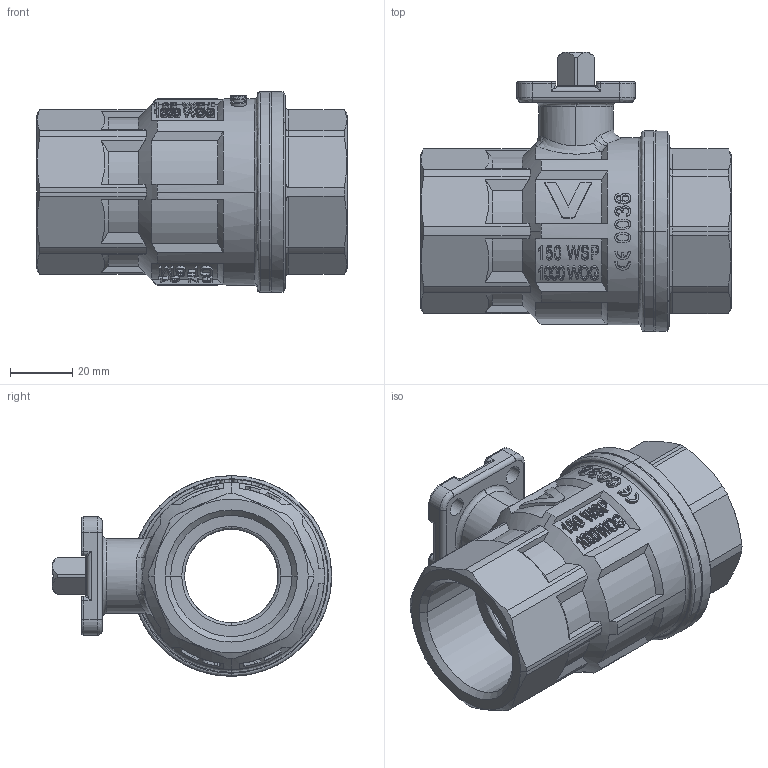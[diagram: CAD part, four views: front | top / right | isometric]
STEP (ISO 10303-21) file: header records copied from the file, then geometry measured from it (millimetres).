
FILE_DESCRIPTION (( 'STEP AP203' ), '1' );
FILE_NAME ('70300007.STEP', '2009-05-20T09:51:51', ( '.' ), ( '.' ), 'SwSTEP 2.0', 'SolidWorks 2008', '' );
FILE_SCHEMA (( 'CONFIG_CONTROL_DESIGN' ));
Length unit declared in the file: millimetre
Products named in the file (1): 70300007
Bounding box: 100 x 89.75 x 64.5 mm (x, y, z)
Volume: 139967.4 mm3; surface area: 53765.6 mm2
Topology: 1 solids, 1 shells, 933 faces, 2434 edges, 1552 vertices
Faces by surface type: bspline 402, plane 248, cylinder 214, cone 69
Entity records: 92020 total; most frequent: CARTESIAN_POINT 71932, ORIENTED_EDGE 4828, DIRECTION 3101, EDGE_CURVE 2414, VERTEX_POINT 1552, AXIS2_PLACEMENT_3D 1074, EDGE_LOOP 1016, VECTOR 953
